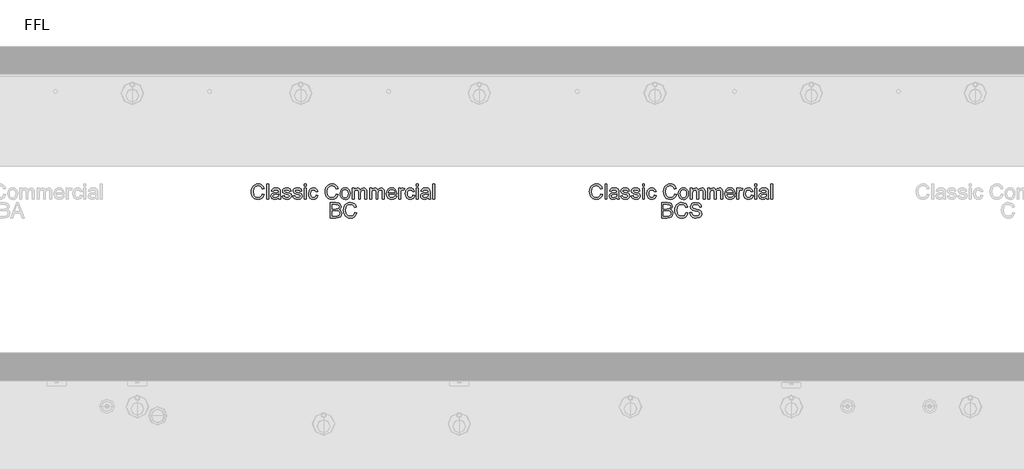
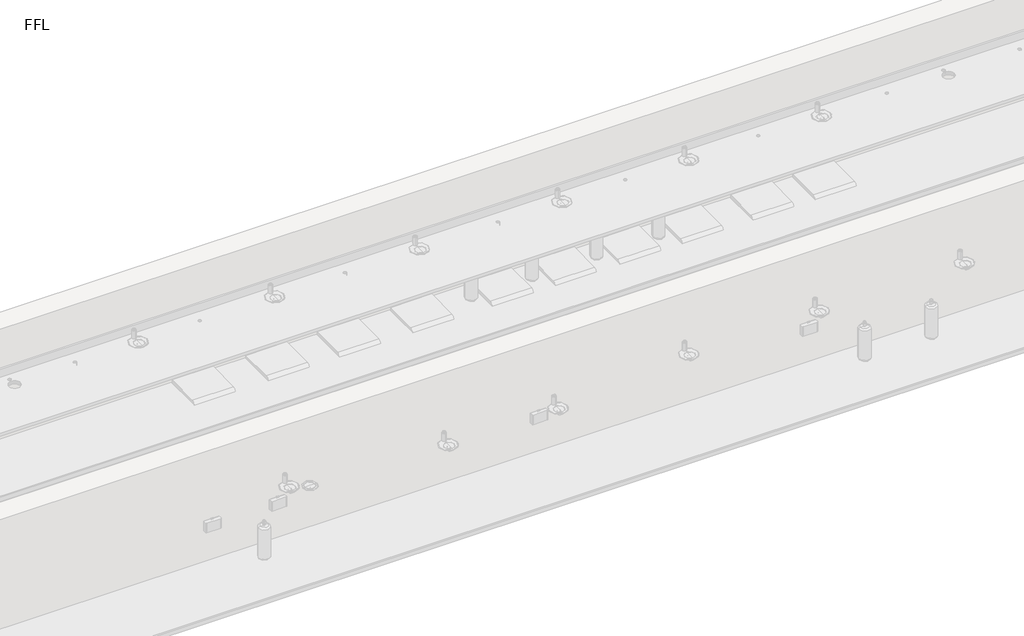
# One storey, part 11 of 13: 2 proxies.
"""IFC4 building model written with IfcOpenShell, lengths in millimetres."""

from ifc_helpers import new_model, si_unit, origin, origin_with_axes, place, context, project, spatial, polyline, outline, extrude, element, save

model = new_model("IFC4")

# Units and contexts
model_context = context("Model", 3, world=origin())
ifc_project = project(units=[si_unit("LENGTHUNIT", "METRE", prefix="MILLI")], contexts=[model_context])

# Site, building, storey
site = spatial("IfcSite", under=ifc_project)
building = spatial("IfcBuilding", under=site)
storey = spatial("IfcBuildingStorey", under=building, Name="FFL", Elevation=0.0)

# Proxies
placement = place(None, origin())
element("IfcBuildingElementProxy", 1, Name="150mm Arial", ObjectType="150mm Arial", at=placement, inside=storey, context=model_context, shape_type="SweptSolid", body=[
    extrude(outline(polyline([(367.1877841, 6676.3018309), (385.6493225, 6671.5422155), (377.1306927, 6650.0292948), (363.7623033, 6634.3126482), (346.2022071, 6624.698766), (325.1084571, 6621.4941386), (303.6946951, 6623.9190184), (286.688986, 6631.1936578), (273.6541302, 6643.065653), (264.1529283, 6659.2826001), (258.352147, 6678.3481049), (256.4185533, 6698.7657732), (258.6045509, 6720.3012299), (265.1625437, 6738.8979847), (275.7499836, 6753.9655929), (290.0243225, 6764.9136097), (306.9534091, 6771.5797756), (325.5050917, 6773.8018309), (345.7469788, 6770.9262299), (362.4822552, 6762.299427), (375.1880845, 6748.4532732), (383.3416302, 6729.9196193), (364.8800917, 6725.5205809), (358.4798514, 6738.9836217), (349.735861, 6748.2188982), (338.5399475, 6753.5599439), (324.7839379, 6755.3402924), (308.9275677, 6753.3661338), (295.9017264, 6747.4436578), (286.0174115, 6738.1948597), (279.5856206, 6726.2417347), (274.8800917, 6698.8018309), (280.4510052, 6666.9989463), (287.5723994, 6655.1224439), (297.7947552, 6646.6804367), (310.0498634, 6641.6368669), (323.2695148, 6639.955677), (338.6796711, 6642.2453405), (351.5207167, 6649.1143309), (361.2157288, 6660.4905328), (367.1877841, 6676.3018309)])), origin_with_axes(), (0.0, 0.0, 1.0), 5.0),
    extrude(outline(polyline([(408.7262456, 6623.8018309), (408.7262456, 6771.4941386), (427.1877841, 6771.4941386), (427.1877841, 6623.8018309), (408.7262456, 6623.8018309)])), origin_with_axes(), (0.0, 0.0, 1.0), 5.0),
    extrude(outline(polyline([(524.110861, 6637.6479847), (506.2082167, 6625.1359655), (486.4305725, 6621.4941386), (471.0023874, 6623.6846434), (459.6216783, 6630.2561578), (452.6039499, 6640.2351242), (450.2647071, 6652.6479847), (453.798361, 6667.2513501), (463.0832167, 6677.8523117), (476.0098994, 6683.910004), (491.9834571, 6686.6864463), (524.0026879, 6693.0326001), (524.110861, 6697.143177), (522.8398273, 6705.3823597), (519.0267264, 6710.7729847), (510.4990821, 6714.7753886), (498.6180725, 6716.1095232), (479.9401879, 6712.5578405), (471.0339379, 6699.955677), (452.5723994, 6702.2633693), (460.5591783, 6720.2922155), (476.6409091, 6730.8571193), (500.9978802, 6734.5710617), (523.3716783, 6731.2898117), (536.0098994, 6723.050629), (541.6709571, 6710.5205809), (542.5723994, 6694.3667347), (542.5723994, 6671.3979847), (543.5098994, 6639.3246674), (547.1877841, 6623.8018309), (528.7262456, 6623.8018309), (524.110861, 6637.6479847)]), holes=[polyline([(524.110861, 6674.5710617), (494.3272071, 6668.910004), (478.4437937, 6665.9172155), (471.2502841, 6661.049427), (468.7262456, 6653.9460617), (474.2250437, 6643.9580809), (490.360861, 6639.955677), (509.0387456, 6644.3727443), (521.0820148, 6655.0638501), (524.0026879, 6669.3426963), (524.110861, 6674.5710617)])]), origin_with_axes(), (0.0, 0.0, 1.0), 5.0),
    extrude(outline(polyline([(561.0339379, 6656.1095232), (579.4954764, 6658.4172155), (582.407135, 6650.5205809), (588.0411494, 6644.7152924), (607.6204764, 6639.955677), (626.4425917, 6644.3186578), (632.5723994, 6654.5590424), (626.4065341, 6662.8523117), (607.4041302, 6668.1167347), (579.6036494, 6677.1491867), (567.470236, 6687.6960617), (563.3416302, 6702.5878886), (566.6589379, 6716.3438982), (575.7094187, 6726.8547155), (587.4461975, 6732.3174559), (603.329611, 6734.5710617), (625.7935533, 6730.9472636), (640.0723994, 6721.1395713), (646.4185533, 6704.5710617), (627.9570148, 6702.2633693), (621.0159091, 6712.4496674), (604.7719187, 6716.1095232), (587.1036494, 6712.611927), (581.8031687, 6704.4628886), (584.0026879, 6699.0902924), (590.8897071, 6695.0157732), (606.7911494, 6691.0854847), (633.8885052, 6682.3955809), (646.4726398, 6672.5518309), (651.0339379, 6656.5061578), (645.6793706, 6638.8378886), (630.2286494, 6626.019379), (607.3680725, 6621.4941386), (588.7532889, 6623.675629), (575.1685533, 6630.2201001), (566.1000437, 6641.0554367), (561.0339379, 6656.1095232)])), origin_with_axes(), (0.0, 0.0, 1.0), 5.0),
    extrude(outline(polyline([(664.8800917, 6656.1095232), (683.3416302, 6658.4172155), (686.2532889, 6650.5205809), (691.8873033, 6644.7152924), (711.4666302, 6639.955677), (730.2887456, 6644.3186578), (736.4185533, 6654.5590424), (730.2526879, 6662.8523117), (711.2502841, 6668.1167347), (683.4498033, 6677.1491867), (671.3163898, 6687.6960617), (667.1877841, 6702.5878886), (670.5050917, 6716.3438982), (679.5555725, 6726.8547155), (691.2923514, 6732.3174559), (707.1757648, 6734.5710617), (729.6397071, 6730.9472636), (743.9185533, 6721.1395713), (750.2647071, 6704.5710617), (731.8031687, 6702.2633693), (724.8620629, 6712.4496674), (708.6180725, 6716.1095232), (690.9498033, 6712.611927), (685.6493225, 6704.4628886), (687.8488417, 6699.0902924), (694.735861, 6695.0157732), (710.6373033, 6691.0854847), (737.7346591, 6682.3955809), (750.3187937, 6672.5518309), (754.8800917, 6656.5061578), (749.5255244, 6638.8378886), (734.0748033, 6626.019379), (711.2142264, 6621.4941386), (692.5994427, 6623.675629), (679.0147071, 6630.2201001), (669.9461975, 6641.0554367), (664.8800917, 6656.1095232)])), origin_with_axes(), (0.0, 0.0, 1.0), 5.0),
    extrude(outline(polyline([(775.6493225, 6623.8018309), (775.6493225, 6732.2633693), (794.110861, 6732.2633693), (794.110861, 6623.8018309), (775.6493225, 6623.8018309)])), origin_with_axes(), (0.0, 0.0, 1.0), 5.0),
    extrude(outline(polyline([(775.6493225, 6753.0326001), (775.6493225, 6771.4941386), (794.110861, 6771.4941386), (794.110861, 6753.0326001), (775.6493225, 6753.0326001)])), origin_with_axes(), (0.0, 0.0, 1.0), 5.0),
    extrude(outline(polyline([(891.0339379, 6663.0326001), (909.4954764, 6660.7249078), (904.3482408, 6644.3051362), (894.6757648, 6631.8967828), (881.3885052, 6624.0947996), (865.3969187, 6621.4941386), (845.758998, 6625.1224439), (830.4029283, 6636.0073597), (820.4915701, 6653.6711217), (817.1877841, 6677.6359655), (822.8308129, 6708.3030328), (829.9522071, 6719.8009294), (840.0303321, 6728.0085617), (852.087123, 6732.9304367), (865.1445148, 6734.5710617), (880.743974, 6732.3174559), (893.2154283, 6725.5566386), (902.1622432, 6714.6491867), (907.1877841, 6699.955677), (888.7262456, 6697.6479847), (880.1625437, 6711.4761097), (865.2887456, 6716.1095232), (853.3581566, 6713.8288742), (843.8885052, 6706.986927), (837.7091182, 6695.2140905), (835.6493225, 6678.1407732), (837.6640461, 6660.8375881), (843.7082167, 6649.0241867), (853.0065941, 6642.2228044), (864.7839379, 6639.955677), (874.3437336, 6641.3709415), (882.1817744, 6645.6167347), (887.883397, 6652.8012299), (891.0339379, 6663.0326001)])), origin_with_axes(), (0.0, 0.0, 1.0), 5.0),
    extrude(outline(polyline([(1089.4954764, 6676.3018309), (1107.9570148, 6671.5422155), (1099.438385, 6650.0292948), (1086.0699956, 6634.3126482), (1068.5098994, 6624.698766), (1047.4161494, 6621.4941386), (1026.0023874, 6623.9190184), (1008.9966783, 6631.1936578), (995.9618225, 6643.065653), (986.4606206, 6659.2826001), (980.6598393, 6678.3481049), (978.7262456, 6698.7657732), (980.9122432, 6720.3012299), (987.470236, 6738.8979847), (998.0576759, 6753.9655929), (1012.3320148, 6764.9136097), (1029.2611014, 6771.5797756), (1047.8127841, 6773.8018309), (1068.0546711, 6770.9262299), (1084.7899475, 6762.299427), (1097.4957768, 6748.4532732), (1105.6493225, 6729.9196193), (1087.1877841, 6725.5205809), (1080.7875437, 6738.9836217), (1072.0435533, 6748.2188982), (1060.8476398, 6753.5599439), (1047.0916302, 6755.3402924), (1031.23526, 6753.3661338), (1018.2094187, 6747.4436578), (1008.3251038, 6738.1948597), (1001.8933129, 6726.2417347), (997.1877841, 6698.8018309), (1002.7586975, 6666.9989463), (1009.8800917, 6655.1224439), (1020.1024475, 6646.6804367), (1032.3575557, 6641.6368669), (1045.5772071, 6639.955677), (1060.9873634, 6642.2453405), (1073.8284091, 6649.1143309), (1083.5234211, 6660.4905328), (1089.4954764, 6676.3018309)])), origin_with_axes(), (0.0, 0.0, 1.0), 5.0),
    extrude(outline(polyline([(1126.4185533, 6678.0326001), (1130.4119427, 6704.1834415), (1142.392111, 6722.5638501), (1157.1937937, 6731.5692588), (1174.9161494, 6734.5710617), (1194.3106807, 6730.9157131), (1209.8019667, 6719.9496674), (1219.9567143, 6702.5383092), (1223.3416302, 6679.5470232), (1221.845236, 6660.8961818), (1217.3560533, 6646.6984655), (1210.0047913, 6636.0659535), (1199.9221591, 6628.1107251), (1187.946498, 6623.1482852), (1174.9161494, 6621.4941386), (1155.2872432, 6625.1359655), (1139.813986, 6636.0614463), (1129.7674115, 6653.8378886), (1126.4185533, 6678.0326001)]), holes=[polyline([(1144.8800917, 6678.0686578), (1147.01651, 6661.3604246), (1153.4257648, 6649.456879), (1163.0711975, 6642.3309775), (1174.9161494, 6639.955677), (1186.7070148, 6642.3444992), (1196.3344187, 6649.5109655), (1202.7436735, 6661.5722636), (1204.8800917, 6678.6455809), (1202.7301518, 6694.8670352), (1196.2803321, 6706.6083213), (1186.6394066, 6713.7342227), (1174.9161494, 6716.1095232), (1163.0711975, 6713.7432371), (1153.4257648, 6706.644379), (1147.01651, 6694.7678766), (1144.8800917, 6678.0686578)])]), origin_with_axes(), (0.0, 0.0, 1.0), 5.0),
    extrude(outline(polyline([(1244.110861, 6623.8018309), (1244.110861, 6732.2633693), (1262.5723994, 6732.2633693), (1262.5723994, 6714.4148117), (1275.2647071, 6729.0362059), (1293.329611, 6734.5710617), (1303.5970389, 6733.1603044), (1311.8272071, 6728.9280328), (1321.9954764, 6713.1167347), (1336.4005244, 6729.2074799), (1354.5916302, 6734.5710617), (1368.4693345, 6732.3399919), (1378.7322552, 6725.6467828), (1385.0739018, 6714.3111458), (1387.1877841, 6698.1527924), (1387.1877841, 6623.8018309), (1368.7262456, 6623.8018309), (1368.7262456, 6690.2201001), (1367.0135052, 6705.6347636), (1360.8115821, 6713.2249078), (1350.2647071, 6716.1095232), (1340.2632047, 6714.2615665), (1332.1096591, 6708.7176963), (1326.6874836, 6699.0993068), (1324.8800917, 6685.0277924), (1324.8800917, 6623.8018309), (1306.4185533, 6623.8018309), (1306.4185533, 6692.2753886), (1302.1457167, 6710.160004), (1296.5071951, 6714.6221434), (1288.1373033, 6716.1095232), (1274.4714379, 6712.143177), (1265.3848994, 6700.5326001), (1262.5723994, 6678.5013501), (1262.5723994, 6623.8018309), (1244.110861, 6623.8018309)])), origin_with_axes(), (0.0, 0.0, 1.0), 5.0),
    extrude(outline(polyline([(1414.8800917, 6623.8018309), (1414.8800917, 6732.2633693), (1433.3416302, 6732.2633693), (1433.3416302, 6714.4148117), (1446.0339379, 6729.0362059), (1464.0988417, 6734.5710617), (1474.3662696, 6733.1603044), (1482.5964379, 6728.9280328), (1492.7647071, 6713.1167347), (1507.1697552, 6729.2074799), (1525.360861, 6734.5710617), (1539.2385653, 6732.3399919), (1549.501486, 6725.6467828), (1555.8431326, 6714.3111458), (1557.9570148, 6698.1527924), (1557.9570148, 6623.8018309), (1539.4954764, 6623.8018309), (1539.4954764, 6690.2201001), (1537.782736, 6705.6347636), (1531.5808129, 6713.2249078), (1521.0339379, 6716.1095232), (1511.0324355, 6714.2615665), (1502.8788898, 6708.7176963), (1497.4567143, 6699.0993068), (1495.6493225, 6685.0277924), (1495.6493225, 6623.8018309), (1477.1877841, 6623.8018309), (1477.1877841, 6692.2753886), (1472.9149475, 6710.160004), (1467.2764259, 6714.6221434), (1458.9065341, 6716.1095232), (1445.2406687, 6712.143177), (1436.1541302, 6700.5326001), (1433.3416302, 6678.5013501), (1433.3416302, 6623.8018309), (1414.8800917, 6623.8018309)])), origin_with_axes(), (0.0, 0.0, 1.0), 5.0),
    extrude(outline(polyline([(1661.5868225, 6656.1095232), (1679.6877841, 6653.8018309), (1673.165849, 6640.1630088), (1662.7586975, 6629.9676963), (1648.7007047, 6623.612528), (1631.2262456, 6621.4941386), (1609.5645869, 6625.1494871), (1592.8969187, 6636.1155328), (1582.2689139, 6653.6801362), (1578.7262456, 6677.1311578), (1582.3049716, 6701.3709415), (1593.0411494, 6719.4989463), (1609.4834571, 6730.8030328), (1630.1805725, 6734.5710617), (1650.2331566, 6730.8120472), (1666.2562937, 6719.535004), (1676.7626038, 6701.4430568), (1680.2647071, 6677.2393309), (1680.1565341, 6672.2633693), (1597.1877841, 6672.2633693), (1600.383397, 6658.4442588), (1607.8067744, 6648.285004), (1618.5204163, 6642.0380088), (1631.5868225, 6639.955677), (1649.6877841, 6643.8138501), (1661.5868225, 6656.1095232)]), holes=[polyline([(1597.1877841, 6690.7249078), (1661.8031687, 6690.7249078), (1659.3061735, 6700.4785136), (1654.4113417, 6707.455677), (1643.6481206, 6713.9460617), (1630.1084571, 6716.1095232), (1617.6640461, 6714.3832612), (1607.3740821, 6709.2044751), (1600.2211374, 6701.1320592), (1597.1877841, 6690.7249078)])]), origin_with_axes(), (0.0, 0.0, 1.0), 5.0),
    extrude(outline(polyline([(1698.7262456, 6623.8018309), (1698.7262456, 6732.2633693), (1714.8800917, 6732.2633693), (1714.8800917, 6716.2176963), (1726.3464379, 6731.0013501), (1737.8848994, 6734.5710617), (1756.4185533, 6728.8739463), (1750.2526879, 6712.3234655), (1737.2719187, 6716.1095232), (1726.8332167, 6712.4676963), (1720.1805725, 6702.3715424), (1717.1877841, 6680.8090424), (1717.1877841, 6623.8018309), (1698.7262456, 6623.8018309)])), origin_with_axes(), (0.0, 0.0, 1.0), 5.0),
    extrude(outline(polyline([(1837.1877841, 6663.0326001), (1855.6493225, 6660.7249078), (1850.5020869, 6644.3051362), (1840.829611, 6631.8967828), (1827.5423514, 6624.0947996), (1811.5507648, 6621.4941386), (1791.9128441, 6625.1224439), (1776.5567744, 6636.0073597), (1766.6454163, 6653.6711217), (1763.3416302, 6677.6359655), (1768.9846591, 6708.3030328), (1776.1060533, 6719.8009294), (1786.1841783, 6728.0085617), (1798.2409691, 6732.9304367), (1811.298361, 6734.5710617), (1826.8978201, 6732.3174559), (1839.3692744, 6725.5566386), (1848.3160893, 6714.6491867), (1853.3416302, 6699.955677), (1834.8800917, 6697.6479847), (1826.3163898, 6711.4761097), (1811.4425917, 6716.1095232), (1799.5120028, 6713.8288742), (1790.0423514, 6706.986927), (1783.8629643, 6695.2140905), (1781.8031687, 6678.1407732), (1783.8178922, 6660.8375881), (1789.8620629, 6649.0241867), (1799.1604403, 6642.2228044), (1810.9377841, 6639.955677), (1820.4975797, 6641.3709415), (1828.3356206, 6645.6167347), (1834.0372432, 6652.8012299), (1837.1877841, 6663.0326001)])), origin_with_axes(), (0.0, 0.0, 1.0), 5.0),
    extrude(outline(polyline([(1871.8031687, 6623.8018309), (1871.8031687, 6732.2633693), (1890.2647071, 6732.2633693), (1890.2647071, 6623.8018309), (1871.8031687, 6623.8018309)])), origin_with_axes(), (0.0, 0.0, 1.0), 5.0),
    extrude(outline(polyline([(1871.8031687, 6753.0326001), (1871.8031687, 6771.4941386), (1890.2647071, 6771.4941386), (1890.2647071, 6753.0326001), (1871.8031687, 6753.0326001)])), origin_with_axes(), (0.0, 0.0, 1.0), 5.0),
    extrude(outline(polyline([(1987.1877841, 6637.6479847), (1969.2851398, 6625.1359655), (1949.5074956, 6621.4941386), (1934.0793105, 6623.6846434), (1922.6986014, 6630.2561578), (1915.680873, 6640.2351242), (1913.3416302, 6652.6479847), (1916.8752841, 6667.2513501), (1926.1601398, 6677.8523117), (1939.0868225, 6683.910004), (1955.0603802, 6686.6864463), (1987.079611, 6693.0326001), (1987.1877841, 6697.143177), (1985.9167504, 6705.3823597), (1982.1036494, 6710.7729847), (1973.5760052, 6714.7753886), (1961.6949956, 6716.1095232), (1943.017111, 6712.5578405), (1934.110861, 6699.955677), (1915.6493225, 6702.2633693), (1923.6361014, 6720.2922155), (1939.7178321, 6730.8571193), (1964.0748033, 6734.5710617), (1986.4486014, 6731.2898117), (1999.0868225, 6723.050629), (2004.7478802, 6710.5205809), (2005.6493225, 6694.3667347), (2005.6493225, 6671.3979847), (2006.5868225, 6639.3246674), (2010.2647071, 6623.8018309), (1991.8031687, 6623.8018309), (1987.1877841, 6637.6479847)]), holes=[polyline([(1987.1877841, 6674.5710617), (1957.4041302, 6668.910004), (1941.5207167, 6665.9172155), (1934.3272071, 6661.049427), (1931.8031687, 6653.9460617), (1937.3019667, 6643.9580809), (1953.4377841, 6639.955677), (1972.1156687, 6644.3727443), (1984.1589379, 6655.0638501), (1987.079611, 6669.3426963), (1987.1877841, 6674.5710617)])]), origin_with_axes(), (0.0, 0.0, 1.0), 5.0),
    extrude(outline(polyline([(2031.0339379, 6623.8018309), (2031.0339379, 6771.4941386), (2049.4954764, 6771.4941386), (2049.4954764, 6623.8018309), (2031.0339379, 6623.8018309)])), origin_with_axes(), (0.0, 0.0, 1.0), 5.0),
    extrude(outline(polyline([(1029.4954764, 6441.4941386), (1029.4954764, 6589.1864463), (1085.8536494, 6589.1864463), (1113.4558129, 6584.8414943), (1122.7316542, 6579.3291746), (1129.7538898, 6571.4821193), (1135.6493225, 6552.5878886), (1130.6913898, 6535.3342828), (1115.7094187, 6522.2633693), (1126.1706566, 6516.800629), (1133.9005244, 6508.4893309), (1138.6736615, 6497.8793549), (1140.2647071, 6485.5205809), (1135.9197552, 6465.6708213), (1125.1565341, 6451.5362059), (1109.0928321, 6444.0362059), (1085.4209571, 6441.4941386), (1029.4954764, 6441.4941386)]), holes=[polyline([(1047.9570148, 6529.1864463), (1081.6709571, 6529.1864463), (1101.3584571, 6530.7729847), (1113.2034091, 6537.6059174), (1117.1877841, 6549.6311578), (1113.4738417, 6561.674427), (1102.8368225, 6568.7958213), (1079.110861, 6570.7249078), (1047.9570148, 6570.7249078), (1047.9570148, 6529.1864463)]), polyline([(1047.9570148, 6459.955677), (1085.8175917, 6459.955677), (1099.5195148, 6460.6768309), (1111.1120629, 6464.6972636), (1118.7923514, 6472.9003886), (1121.8031687, 6485.3402924), (1118.2695148, 6499.691254), (1106.8211975, 6508.2549559), (1084.0147071, 6510.7249078), (1047.9570148, 6510.7249078), (1047.9570148, 6459.955677)])]), origin_with_axes(), (0.0, 0.0, 1.0), 5.0),
    extrude(outline(polyline([(1269.4954764, 6493.9941386), (1287.9570148, 6489.2345232), (1279.438385, 6467.7216025), (1266.0699956, 6452.0049559), (1248.5098994, 6442.3910737), (1227.4161494, 6439.1864463), (1206.0023874, 6441.6113261), (1188.9966783, 6448.8859655), (1175.9618225, 6460.7579607), (1166.4606206, 6476.9749078), (1160.6598393, 6496.0404126), (1158.7262456, 6516.4580809), (1160.9122432, 6537.9935376), (1167.470236, 6556.5902924), (1178.0576759, 6571.6579006), (1192.3320148, 6582.6059174), (1209.2611014, 6589.2720833), (1227.8127841, 6591.4941386), (1248.0546711, 6588.6185376), (1264.7899475, 6579.9917347), (1277.4957768, 6566.1455809), (1285.6493225, 6547.611927), (1267.1877841, 6543.2128886), (1260.7875437, 6556.6759294), (1252.0435533, 6565.9112059), (1240.8476398, 6571.2522516), (1227.0916302, 6573.0326001), (1211.23526, 6571.0584415), (1198.2094187, 6565.1359655), (1188.3251038, 6555.8871674), (1181.8933129, 6543.9340424), (1177.1877841, 6516.4941386), (1182.7586975, 6484.691254), (1189.8800917, 6472.8147516), (1200.1024475, 6464.3727443), (1212.3575557, 6459.3291746), (1225.5772071, 6457.6479847), (1240.9873634, 6459.9376482), (1253.8284091, 6466.8066386), (1263.5234211, 6478.1828405), (1269.4954764, 6493.9941386)])), origin_with_axes(), (0.0, 0.0, 1.0), 5.0),
])
element("IfcBuildingElementProxy", 2, Name="150mm Arial", ObjectType="150mm Arial", at=placement, inside=storey, context=model_context, shape_type="SweptSolid", body=[
    extrude(outline(polyline([(3674.1877841, 6676.3018309), (3692.6493225, 6671.5422155), (3684.1306927, 6650.0292948), (3670.7623033, 6634.3126482), (3653.2022071, 6624.698766), (3632.1084571, 6621.4941386), (3610.6946951, 6623.9190184), (3593.688986, 6631.1936578), (3580.6541302, 6643.065653), (3571.1529283, 6659.2826001), (3565.352147, 6678.3481049), (3563.4185533, 6698.7657732), (3565.6045509, 6720.3012299), (3572.1625437, 6738.8979847), (3582.7499836, 6753.9655929), (3597.0243225, 6764.9136097), (3613.9534091, 6771.5797756), (3632.5050917, 6773.8018309), (3652.7469788, 6770.9262299), (3669.4822552, 6762.299427), (3682.1880845, 6748.4532732), (3690.3416302, 6729.9196193), (3671.8800917, 6725.5205809), (3665.4798514, 6738.9836217), (3656.735861, 6748.2188982), (3645.5399475, 6753.5599439), (3631.7839379, 6755.3402924), (3615.9275677, 6753.3661338), (3602.9017264, 6747.4436578), (3593.0174115, 6738.1948597), (3586.5856206, 6726.2417347), (3581.8800917, 6698.8018309), (3587.4510052, 6666.9989463), (3594.5723994, 6655.1224439), (3604.7947552, 6646.6804367), (3617.0498634, 6641.6368669), (3630.2695148, 6639.955677), (3645.6796711, 6642.2453405), (3658.5207167, 6649.1143309), (3668.2157288, 6660.4905328), (3674.1877841, 6676.3018309)])), origin_with_axes(), (0.0, 0.0, 1.0), 5.0),
    extrude(outline(polyline([(3715.7262456, 6623.8018309), (3715.7262456, 6771.4941386), (3734.1877841, 6771.4941386), (3734.1877841, 6623.8018309), (3715.7262456, 6623.8018309)])), origin_with_axes(), (0.0, 0.0, 1.0), 5.0),
    extrude(outline(polyline([(3831.110861, 6637.6479847), (3813.2082167, 6625.1359655), (3793.4305725, 6621.4941386), (3778.0023874, 6623.6846434), (3766.6216783, 6630.2561578), (3759.6039499, 6640.2351242), (3757.2647071, 6652.6479847), (3760.798361, 6667.2513501), (3770.0832167, 6677.8523117), (3783.0098994, 6683.910004), (3798.9834571, 6686.6864463), (3831.0026879, 6693.0326001), (3831.110861, 6697.143177), (3829.8398273, 6705.3823597), (3826.0267264, 6710.7729847), (3817.4990821, 6714.7753886), (3805.6180725, 6716.1095232), (3786.9401879, 6712.5578405), (3778.0339379, 6699.955677), (3759.5723994, 6702.2633693), (3767.5591783, 6720.2922155), (3783.6409091, 6730.8571193), (3807.9978802, 6734.5710617), (3830.3716783, 6731.2898117), (3843.0098994, 6723.050629), (3848.6709571, 6710.5205809), (3849.5723994, 6694.3667347), (3849.5723994, 6671.3979847), (3850.5098994, 6639.3246674), (3854.1877841, 6623.8018309), (3835.7262456, 6623.8018309), (3831.110861, 6637.6479847)]), holes=[polyline([(3831.110861, 6674.5710617), (3801.3272071, 6668.910004), (3785.4437937, 6665.9172155), (3778.2502841, 6661.049427), (3775.7262456, 6653.9460617), (3781.2250437, 6643.9580809), (3797.360861, 6639.955677), (3816.0387456, 6644.3727443), (3828.0820148, 6655.0638501), (3831.0026879, 6669.3426963), (3831.110861, 6674.5710617)])]), origin_with_axes(), (0.0, 0.0, 1.0), 5.0),
    extrude(outline(polyline([(3868.0339379, 6656.1095232), (3886.4954764, 6658.4172155), (3889.407135, 6650.5205809), (3895.0411494, 6644.7152924), (3914.6204764, 6639.955677), (3933.4425917, 6644.3186578), (3939.5723994, 6654.5590424), (3933.4065341, 6662.8523117), (3914.4041302, 6668.1167347), (3886.6036494, 6677.1491867), (3874.470236, 6687.6960617), (3870.3416302, 6702.5878886), (3873.6589379, 6716.3438982), (3882.7094187, 6726.8547155), (3894.4461975, 6732.3174559), (3910.329611, 6734.5710617), (3932.7935533, 6730.9472636), (3947.0723994, 6721.1395713), (3953.4185533, 6704.5710617), (3934.9570148, 6702.2633693), (3928.0159091, 6712.4496674), (3911.7719187, 6716.1095232), (3894.1036494, 6712.611927), (3888.8031687, 6704.4628886), (3891.0026879, 6699.0902924), (3897.8897071, 6695.0157732), (3913.7911494, 6691.0854847), (3940.8885052, 6682.3955809), (3953.4726398, 6672.5518309), (3958.0339379, 6656.5061578), (3952.6793706, 6638.8378886), (3937.2286494, 6626.019379), (3914.3680725, 6621.4941386), (3895.7532889, 6623.675629), (3882.1685533, 6630.2201001), (3873.1000437, 6641.0554367), (3868.0339379, 6656.1095232)])), origin_with_axes(), (0.0, 0.0, 1.0), 5.0),
    extrude(outline(polyline([(3971.8800917, 6656.1095232), (3990.3416302, 6658.4172155), (3993.2532889, 6650.5205809), (3998.8873033, 6644.7152924), (4018.4666302, 6639.955677), (4037.2887456, 6644.3186578), (4043.4185533, 6654.5590424), (4037.2526879, 6662.8523117), (4018.2502841, 6668.1167347), (3990.4498033, 6677.1491867), (3978.3163898, 6687.6960617), (3974.1877841, 6702.5878886), (3977.5050917, 6716.3438982), (3986.5555725, 6726.8547155), (3998.2923514, 6732.3174559), (4014.1757648, 6734.5710617), (4036.6397071, 6730.9472636), (4050.9185533, 6721.1395713), (4057.2647071, 6704.5710617), (4038.8031687, 6702.2633693), (4031.8620629, 6712.4496674), (4015.6180725, 6716.1095232), (3997.9498033, 6712.611927), (3992.6493225, 6704.4628886), (3994.8488417, 6699.0902924), (4001.735861, 6695.0157732), (4017.6373033, 6691.0854847), (4044.7346591, 6682.3955809), (4057.3187937, 6672.5518309), (4061.8800917, 6656.5061578), (4056.5255244, 6638.8378886), (4041.0748033, 6626.019379), (4018.2142264, 6621.4941386), (3999.5994427, 6623.675629), (3986.0147071, 6630.2201001), (3976.9461975, 6641.0554367), (3971.8800917, 6656.1095232)])), origin_with_axes(), (0.0, 0.0, 1.0), 5.0),
    extrude(outline(polyline([(4082.6493225, 6623.8018309), (4082.6493225, 6732.2633693), (4101.110861, 6732.2633693), (4101.110861, 6623.8018309), (4082.6493225, 6623.8018309)])), origin_with_axes(), (0.0, 0.0, 1.0), 5.0),
    extrude(outline(polyline([(4082.6493225, 6753.0326001), (4082.6493225, 6771.4941386), (4101.110861, 6771.4941386), (4101.110861, 6753.0326001), (4082.6493225, 6753.0326001)])), origin_with_axes(), (0.0, 0.0, 1.0), 5.0),
    extrude(outline(polyline([(4198.0339379, 6663.0326001), (4216.4954764, 6660.7249078), (4211.3482408, 6644.3051362), (4201.6757648, 6631.8967828), (4188.3885052, 6624.0947996), (4172.3969187, 6621.4941386), (4152.758998, 6625.1224439), (4137.4029283, 6636.0073597), (4127.4915701, 6653.6711217), (4124.1877841, 6677.6359655), (4129.8308129, 6708.3030328), (4136.9522071, 6719.8009294), (4147.0303321, 6728.0085617), (4159.087123, 6732.9304367), (4172.1445148, 6734.5710617), (4187.743974, 6732.3174559), (4200.2154283, 6725.5566386), (4209.1622432, 6714.6491867), (4214.1877841, 6699.955677), (4195.7262456, 6697.6479847), (4187.1625437, 6711.4761097), (4172.2887456, 6716.1095232), (4160.3581566, 6713.8288742), (4150.8885052, 6706.986927), (4144.7091182, 6695.2140905), (4142.6493225, 6678.1407732), (4144.6640461, 6660.8375881), (4150.7082167, 6649.0241867), (4160.0065941, 6642.2228044), (4171.7839379, 6639.955677), (4181.3437336, 6641.3709415), (4189.1817744, 6645.6167347), (4194.883397, 6652.8012299), (4198.0339379, 6663.0326001)])), origin_with_axes(), (0.0, 0.0, 1.0), 5.0),
    extrude(outline(polyline([(4396.4954764, 6676.3018309), (4414.9570148, 6671.5422155), (4406.438385, 6650.0292948), (4393.0699956, 6634.3126482), (4375.5098994, 6624.698766), (4354.4161494, 6621.4941386), (4333.0023874, 6623.9190184), (4315.9966783, 6631.1936578), (4302.9618225, 6643.065653), (4293.4606206, 6659.2826001), (4287.6598393, 6678.3481049), (4285.7262456, 6698.7657732), (4287.9122432, 6720.3012299), (4294.470236, 6738.8979847), (4305.0576759, 6753.9655929), (4319.3320148, 6764.9136097), (4336.2611014, 6771.5797756), (4354.8127841, 6773.8018309), (4375.0546711, 6770.9262299), (4391.7899475, 6762.299427), (4404.4957768, 6748.4532732), (4412.6493225, 6729.9196193), (4394.1877841, 6725.5205809), (4387.7875437, 6738.9836217), (4379.0435533, 6748.2188982), (4367.8476398, 6753.5599439), (4354.0916302, 6755.3402924), (4338.23526, 6753.3661338), (4325.2094187, 6747.4436578), (4315.3251038, 6738.1948597), (4308.8933129, 6726.2417347), (4304.1877841, 6698.8018309), (4309.7586975, 6666.9989463), (4316.8800917, 6655.1224439), (4327.1024475, 6646.6804367), (4339.3575557, 6641.6368669), (4352.5772071, 6639.955677), (4367.9873634, 6642.2453405), (4380.8284091, 6649.1143309), (4390.5234211, 6660.4905328), (4396.4954764, 6676.3018309)])), origin_with_axes(), (0.0, 0.0, 1.0), 5.0),
    extrude(outline(polyline([(4433.4185533, 6678.0326001), (4437.4119427, 6704.1834415), (4449.392111, 6722.5638501), (4464.1937937, 6731.5692588), (4481.9161494, 6734.5710617), (4501.3106807, 6730.9157131), (4516.8019667, 6719.9496674), (4526.9567143, 6702.5383092), (4530.3416302, 6679.5470232), (4528.845236, 6660.8961818), (4524.3560533, 6646.6984655), (4517.0047913, 6636.0659535), (4506.9221591, 6628.1107251), (4494.946498, 6623.1482852), (4481.9161494, 6621.4941386), (4462.2872432, 6625.1359655), (4446.813986, 6636.0614463), (4436.7674115, 6653.8378886), (4433.4185533, 6678.0326001)]), holes=[polyline([(4451.8800917, 6678.0686578), (4454.01651, 6661.3604246), (4460.4257648, 6649.456879), (4470.0711975, 6642.3309775), (4481.9161494, 6639.955677), (4493.7070148, 6642.3444992), (4503.3344187, 6649.5109655), (4509.7436735, 6661.5722636), (4511.8800917, 6678.6455809), (4509.7301518, 6694.8670352), (4503.2803321, 6706.6083213), (4493.6394066, 6713.7342227), (4481.9161494, 6716.1095232), (4470.0711975, 6713.7432371), (4460.4257648, 6706.644379), (4454.01651, 6694.7678766), (4451.8800917, 6678.0686578)])]), origin_with_axes(), (0.0, 0.0, 1.0), 5.0),
    extrude(outline(polyline([(4551.110861, 6623.8018309), (4551.110861, 6732.2633693), (4569.5723994, 6732.2633693), (4569.5723994, 6714.4148117), (4582.2647071, 6729.0362059), (4600.329611, 6734.5710617), (4610.5970389, 6733.1603044), (4618.8272071, 6728.9280328), (4628.9954764, 6713.1167347), (4643.4005244, 6729.2074799), (4661.5916302, 6734.5710617), (4675.4693345, 6732.3399919), (4685.7322552, 6725.6467828), (4692.0739018, 6714.3111458), (4694.1877841, 6698.1527924), (4694.1877841, 6623.8018309), (4675.7262456, 6623.8018309), (4675.7262456, 6690.2201001), (4674.0135052, 6705.6347636), (4667.8115821, 6713.2249078), (4657.2647071, 6716.1095232), (4647.2632047, 6714.2615665), (4639.1096591, 6708.7176963), (4633.6874836, 6699.0993068), (4631.8800917, 6685.0277924), (4631.8800917, 6623.8018309), (4613.4185533, 6623.8018309), (4613.4185533, 6692.2753886), (4609.1457167, 6710.160004), (4603.5071951, 6714.6221434), (4595.1373033, 6716.1095232), (4581.4714379, 6712.143177), (4572.3848994, 6700.5326001), (4569.5723994, 6678.5013501), (4569.5723994, 6623.8018309), (4551.110861, 6623.8018309)])), origin_with_axes(), (0.0, 0.0, 1.0), 5.0),
    extrude(outline(polyline([(4721.8800917, 6623.8018309), (4721.8800917, 6732.2633693), (4740.3416302, 6732.2633693), (4740.3416302, 6714.4148117), (4753.0339379, 6729.0362059), (4771.0988417, 6734.5710617), (4781.3662696, 6733.1603044), (4789.5964379, 6728.9280328), (4799.7647071, 6713.1167347), (4814.1697552, 6729.2074799), (4832.360861, 6734.5710617), (4846.2385653, 6732.3399919), (4856.501486, 6725.6467828), (4862.8431326, 6714.3111458), (4864.9570148, 6698.1527924), (4864.9570148, 6623.8018309), (4846.4954764, 6623.8018309), (4846.4954764, 6690.2201001), (4844.782736, 6705.6347636), (4838.5808129, 6713.2249078), (4828.0339379, 6716.1095232), (4818.0324355, 6714.2615665), (4809.8788898, 6708.7176963), (4804.4567143, 6699.0993068), (4802.6493225, 6685.0277924), (4802.6493225, 6623.8018309), (4784.1877841, 6623.8018309), (4784.1877841, 6692.2753886), (4779.9149475, 6710.160004), (4774.2764259, 6714.6221434), (4765.9065341, 6716.1095232), (4752.2406687, 6712.143177), (4743.1541302, 6700.5326001), (4740.3416302, 6678.5013501), (4740.3416302, 6623.8018309), (4721.8800917, 6623.8018309)])), origin_with_axes(), (0.0, 0.0, 1.0), 5.0),
    extrude(outline(polyline([(4968.5868225, 6656.1095232), (4986.6877841, 6653.8018309), (4980.165849, 6640.1630088), (4969.7586975, 6629.9676963), (4955.7007047, 6623.612528), (4938.2262456, 6621.4941386), (4916.5645869, 6625.1494871), (4899.8969187, 6636.1155328), (4889.2689139, 6653.6801362), (4885.7262456, 6677.1311578), (4889.3049716, 6701.3709415), (4900.0411494, 6719.4989463), (4916.4834571, 6730.8030328), (4937.1805725, 6734.5710617), (4957.2331566, 6730.8120472), (4973.2562937, 6719.535004), (4983.7626038, 6701.4430568), (4987.2647071, 6677.2393309), (4987.1565341, 6672.2633693), (4904.1877841, 6672.2633693), (4907.383397, 6658.4442588), (4914.8067744, 6648.285004), (4925.5204163, 6642.0380088), (4938.5868225, 6639.955677), (4956.6877841, 6643.8138501), (4968.5868225, 6656.1095232)]), holes=[polyline([(4904.1877841, 6690.7249078), (4968.8031687, 6690.7249078), (4966.3061735, 6700.4785136), (4961.4113417, 6707.455677), (4950.6481206, 6713.9460617), (4937.1084571, 6716.1095232), (4924.6640461, 6714.3832612), (4914.3740821, 6709.2044751), (4907.2211374, 6701.1320592), (4904.1877841, 6690.7249078)])]), origin_with_axes(), (0.0, 0.0, 1.0), 5.0),
    extrude(outline(polyline([(5005.7262456, 6623.8018309), (5005.7262456, 6732.2633693), (5021.8800917, 6732.2633693), (5021.8800917, 6716.2176963), (5033.3464379, 6731.0013501), (5044.8848994, 6734.5710617), (5063.4185533, 6728.8739463), (5057.2526879, 6712.3234655), (5044.2719187, 6716.1095232), (5033.8332167, 6712.4676963), (5027.1805725, 6702.3715424), (5024.1877841, 6680.8090424), (5024.1877841, 6623.8018309), (5005.7262456, 6623.8018309)])), origin_with_axes(), (0.0, 0.0, 1.0), 5.0),
    extrude(outline(polyline([(5144.1877841, 6663.0326001), (5162.6493225, 6660.7249078), (5157.5020869, 6644.3051362), (5147.829611, 6631.8967828), (5134.5423514, 6624.0947996), (5118.5507648, 6621.4941386), (5098.9128441, 6625.1224439), (5083.5567744, 6636.0073597), (5073.6454163, 6653.6711217), (5070.3416302, 6677.6359655), (5075.9846591, 6708.3030328), (5083.1060533, 6719.8009294), (5093.1841783, 6728.0085617), (5105.2409691, 6732.9304367), (5118.298361, 6734.5710617), (5133.8978201, 6732.3174559), (5146.3692744, 6725.5566386), (5155.3160893, 6714.6491867), (5160.3416302, 6699.955677), (5141.8800917, 6697.6479847), (5133.3163898, 6711.4761097), (5118.4425917, 6716.1095232), (5106.5120028, 6713.8288742), (5097.0423514, 6706.986927), (5090.8629643, 6695.2140905), (5088.8031687, 6678.1407732), (5090.8178922, 6660.8375881), (5096.8620629, 6649.0241867), (5106.1604403, 6642.2228044), (5117.9377841, 6639.955677), (5127.4975797, 6641.3709415), (5135.3356206, 6645.6167347), (5141.0372432, 6652.8012299), (5144.1877841, 6663.0326001)])), origin_with_axes(), (0.0, 0.0, 1.0), 5.0),
    extrude(outline(polyline([(5178.8031687, 6623.8018309), (5178.8031687, 6732.2633693), (5197.2647071, 6732.2633693), (5197.2647071, 6623.8018309), (5178.8031687, 6623.8018309)])), origin_with_axes(), (0.0, 0.0, 1.0), 5.0),
    extrude(outline(polyline([(5178.8031687, 6753.0326001), (5178.8031687, 6771.4941386), (5197.2647071, 6771.4941386), (5197.2647071, 6753.0326001), (5178.8031687, 6753.0326001)])), origin_with_axes(), (0.0, 0.0, 1.0), 5.0),
    extrude(outline(polyline([(5294.1877841, 6637.6479847), (5276.2851398, 6625.1359655), (5256.5074956, 6621.4941386), (5241.0793105, 6623.6846434), (5229.6986014, 6630.2561578), (5222.680873, 6640.2351242), (5220.3416302, 6652.6479847), (5223.8752841, 6667.2513501), (5233.1601398, 6677.8523117), (5246.0868225, 6683.910004), (5262.0603802, 6686.6864463), (5294.079611, 6693.0326001), (5294.1877841, 6697.143177), (5292.9167504, 6705.3823597), (5289.1036494, 6710.7729847), (5280.5760052, 6714.7753886), (5268.6949956, 6716.1095232), (5250.017111, 6712.5578405), (5241.110861, 6699.955677), (5222.6493225, 6702.2633693), (5230.6361014, 6720.2922155), (5246.7178321, 6730.8571193), (5271.0748033, 6734.5710617), (5293.4486014, 6731.2898117), (5306.0868225, 6723.050629), (5311.7478802, 6710.5205809), (5312.6493225, 6694.3667347), (5312.6493225, 6671.3979847), (5313.5868225, 6639.3246674), (5317.2647071, 6623.8018309), (5298.8031687, 6623.8018309), (5294.1877841, 6637.6479847)]), holes=[polyline([(5294.1877841, 6674.5710617), (5264.4041302, 6668.910004), (5248.5207167, 6665.9172155), (5241.3272071, 6661.049427), (5238.8031687, 6653.9460617), (5244.3019667, 6643.9580809), (5260.4377841, 6639.955677), (5279.1156687, 6644.3727443), (5291.1589379, 6655.0638501), (5294.079611, 6669.3426963), (5294.1877841, 6674.5710617)])]), origin_with_axes(), (0.0, 0.0, 1.0), 5.0),
    extrude(outline(polyline([(5338.0339379, 6623.8018309), (5338.0339379, 6771.4941386), (5356.4954764, 6771.4941386), (5356.4954764, 6623.8018309), (5338.0339379, 6623.8018309)])), origin_with_axes(), (0.0, 0.0, 1.0), 5.0),
    extrude(outline(polyline([(4268.4185533, 6441.4941386), (4268.4185533, 6589.1864463), (4324.7767264, 6589.1864463), (4352.3788898, 6584.8414943), (4361.6547312, 6579.3291746), (4368.6769667, 6571.4821193), (4374.5723994, 6552.5878886), (4369.6144667, 6535.3342828), (4354.6324956, 6522.2633693), (4365.0937336, 6516.800629), (4372.8236014, 6508.4893309), (4377.5967384, 6497.8793549), (4379.1877841, 6485.5205809), (4374.8428321, 6465.6708213), (4364.079611, 6451.5362059), (4348.0159091, 6444.0362059), (4324.3440341, 6441.4941386), (4268.4185533, 6441.4941386)]), holes=[polyline([(4286.8800917, 6529.1864463), (4320.5940341, 6529.1864463), (4340.2815341, 6530.7729847), (4352.126486, 6537.6059174), (4356.110861, 6549.6311578), (4352.3969187, 6561.674427), (4341.7598994, 6568.7958213), (4318.0339379, 6570.7249078), (4286.8800917, 6570.7249078), (4286.8800917, 6529.1864463)]), polyline([(4286.8800917, 6459.955677), (4324.7406687, 6459.955677), (4338.4425917, 6460.6768309), (4350.0351398, 6464.6972636), (4357.7154283, 6472.9003886), (4360.7262456, 6485.3402924), (4357.1925917, 6499.691254), (4345.7442744, 6508.2549559), (4322.9377841, 6510.7249078), (4286.8800917, 6510.7249078), (4286.8800917, 6459.955677)])]), origin_with_axes(), (0.0, 0.0, 1.0), 5.0),
    extrude(outline(polyline([(4508.4185533, 6493.9941386), (4526.8800917, 6489.2345232), (4518.3614619, 6467.7216025), (4504.9930725, 6452.0049559), (4487.4329764, 6442.3910737), (4466.3392264, 6439.1864463), (4444.9254643, 6441.6113261), (4427.9197552, 6448.8859655), (4414.8848994, 6460.7579607), (4405.3836975, 6476.9749078), (4399.5829163, 6496.0404126), (4397.6493225, 6516.4580809), (4399.8353201, 6537.9935376), (4406.3933129, 6556.5902924), (4416.9807528, 6571.6579006), (4431.2550917, 6582.6059174), (4448.1841783, 6589.2720833), (4466.735861, 6591.4941386), (4486.977748, 6588.6185376), (4503.7130244, 6579.9917347), (4516.4188538, 6566.1455809), (4524.5723994, 6547.611927), (4506.110861, 6543.2128886), (4499.7106206, 6556.6759294), (4490.9666302, 6565.9112059), (4479.7707167, 6571.2522516), (4466.0147071, 6573.0326001), (4450.1583369, 6571.0584415), (4437.1324956, 6565.1359655), (4427.2481807, 6555.8871674), (4420.8163898, 6543.9340424), (4416.110861, 6516.4941386), (4421.6817744, 6484.691254), (4428.8031687, 6472.8147516), (4439.0255244, 6464.3727443), (4451.2806326, 6459.3291746), (4464.5002841, 6457.6479847), (4479.9104403, 6459.9376482), (4492.751486, 6466.8066386), (4502.446498, 6478.1828405), (4508.4185533, 6493.9941386)])), origin_with_axes(), (0.0, 0.0, 1.0), 5.0),
    extrude(outline(polyline([(4545.3416302, 6492.2633693), (4563.8031687, 6492.2633693), (4569.7526879, 6473.783802), (4584.2839379, 6462.1011097), (4606.423361, 6457.6479847), (4625.7142264, 6461.019379), (4638.1721591, 6470.2862059), (4642.2647071, 6482.6720232), (4639.1998033, 6494.1924559), (4626.6517264, 6502.5758693), (4599.7707167, 6509.6251482), (4570.8344187, 6518.7297155), (4555.1312937, 6532.4676963), (4549.9570148, 6550.8210617), (4551.5570749, 6561.6338621), (4556.3572552, 6571.7164943), (4564.2313538, 6580.2621674), (4575.0531687, 6586.4640905), (4602.4209571, 6591.4941386), (4631.6276879, 6586.2297155), (4642.8236014, 6579.7303165), (4651.0988417, 6570.7609655), (4656.3362216, 6559.8805568), (4658.4185533, 6547.6479847), (4639.9570148, 6547.6479847), (4636.5675917, 6558.6636097), (4629.5002841, 6566.6143309), (4618.4576158, 6571.4280328), (4603.142111, 6573.0326001), (4587.4660292, 6571.4460617), (4576.7118225, 6566.6864463), (4570.4918706, 6559.6822395), (4568.4185533, 6551.361927), (4569.8879042, 6544.2675761), (4574.2959571, 6538.5614463), (4604.4401879, 6528.2489463), (4637.1084571, 6518.9821193), (4647.6327961, 6512.284403), (4654.9750437, 6504.018177), (4660.7262456, 6483.1407732), (4659.072099, 6471.7600641), (4654.1096591, 6461.0554367), (4646.0417504, 6451.8426963), (4635.0711975, 6444.9376482), (4607.1445148, 6439.1864463), (4589.0570749, 6440.736927), (4574.1697552, 6445.3883693), (4562.3112816, 6453.158802), (4553.3103802, 6464.066254), (4547.532135, 6477.3535136), (4545.3416302, 6492.2633693)])), origin_with_axes(), (0.0, 0.0, 1.0), 5.0),
])

save(model, "model.ifc")
